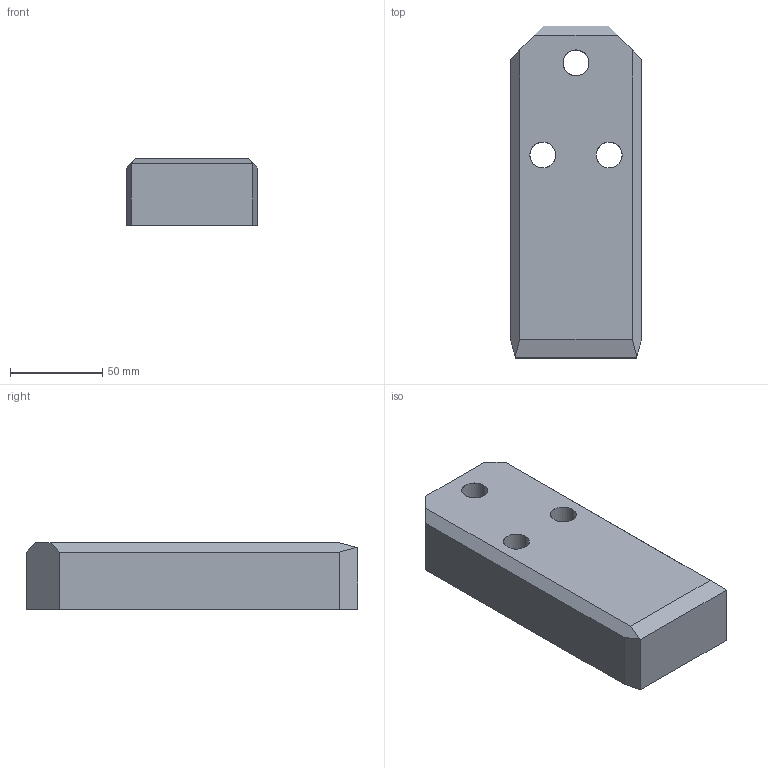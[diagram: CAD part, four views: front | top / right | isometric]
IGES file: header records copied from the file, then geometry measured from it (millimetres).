
Start section: START RECORD GO HERE.
Global section: file name: A927-71X180X36.igs; native system: DASSAULT SYSTEMES CATIA V5 R20 - www.3ds.com; preprocessor: CATIA Version 5 Release 20 ; author: Utente; organization: NB04-ASUS; date: 20200408.202704; units: millimetre
Bounding box: 71 x 180 x 36 mm (x, y, z)
Surface area: 45276.7 mm2 (no closed solid volume)
Topology: 0 solids, 0 shells, 35 faces, 168 edges, 168 vertices
Faces by surface type: revolution 18, extrusion 17
